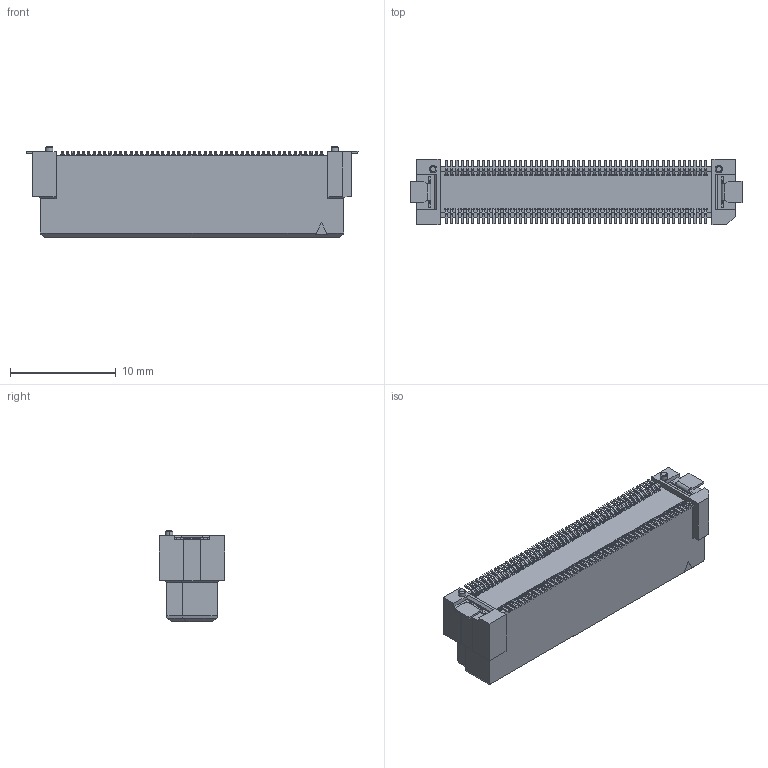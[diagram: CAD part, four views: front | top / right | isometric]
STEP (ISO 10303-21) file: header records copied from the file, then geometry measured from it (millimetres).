
FILE_DESCRIPTION(('Creo Elements/Direct Modeling STEP Export'),'2;1');
FILE_NAME('P3D070_DT11-100S-10-T.stp','2017-08-11T10:49:41',(''),(''),'Creo Elements/Direct Modeling STEP processor for AP214 (Solid Model)','Creo Elements/Direct Modeling 19.0F 14-Feb-2017 (C) Parametric Technology GmbH','');
FILE_SCHEMA(('AUTOMOTIVE_DESIGN { 1 0 10303 214 1 1 1 1 }'));
Products named in the file (2): DT11-100S-10-T
Assembly tree (1 placements, depth 2):
  DT11-100S-10-T
    DT11-100S-10-T
Bounding box: 31.4 x 6.2 x 8.63 mm (x, y, z)
Volume: 965.3 mm3; surface area: 1675.4 mm2
Topology: 1 solids, 1 shells, 3541 faces, 10026 edges, 6692 vertices
Faces by surface type: plane 3021, cylinder 516, cone 4
Entity records: 112295 total; most frequent: ORIENTED_EDGE 20052, CARTESIAN_POINT 19962, DIRECTION 17947, EDGE_CURVE 10026, VECTOR 8593, LINE 8593, VERTEX_POINT 6692, AXIS2_PLACEMENT_3D 4677
